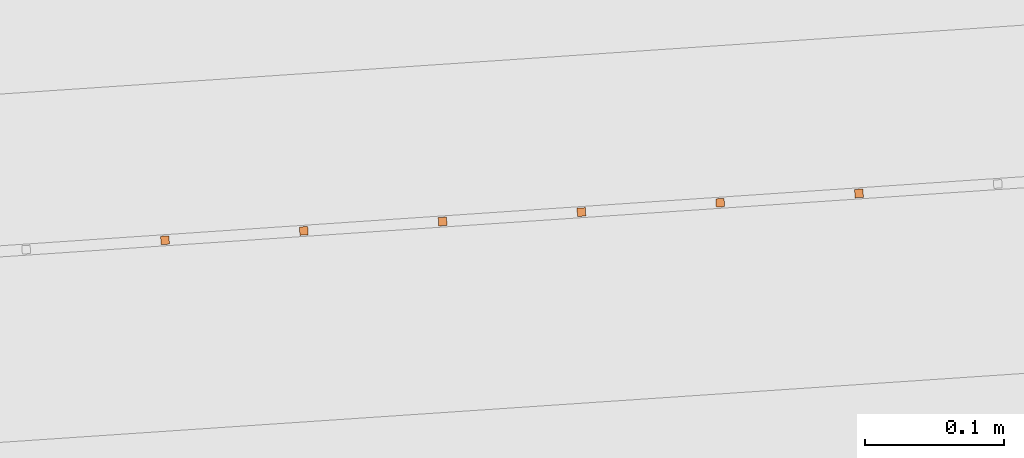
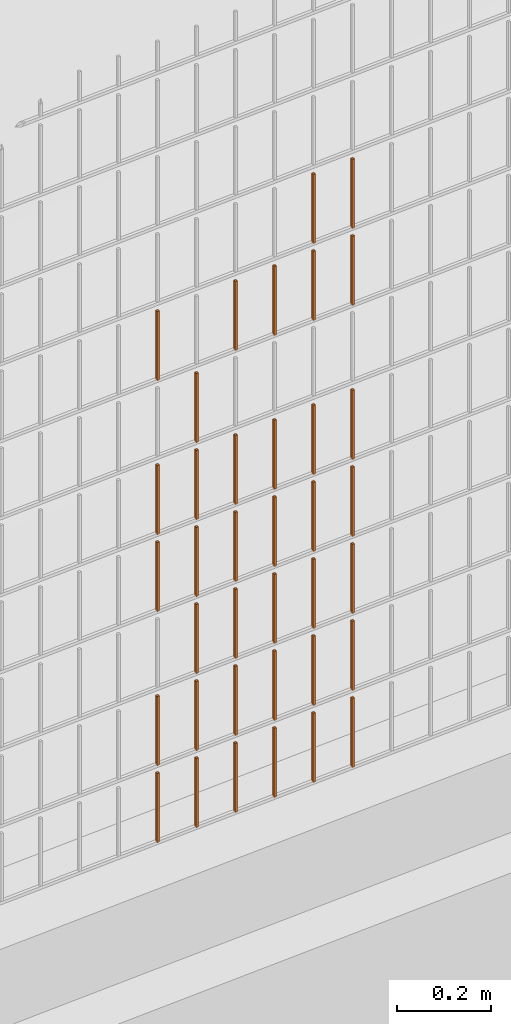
# One storey, part 163 of 1809: 37 proxies, 1 element without a shape of its own.
"""IFC2X3 building model written with IfcOpenShell, lengths in millimetres."""

from ifc_helpers import new_model, entity, si_unit, converted_unit, derived_unit, money_unit, direction, frame, origin_with_axes, place, context, subcontext, project, spatial, faceted_brep, source, transform, mapped, material, type_object, element, aggregate, save


model = new_model("IFC2X3")

# Units and contexts
model_context = context("Model", 3, precision=0.01, world=origin_with_axes(), true_north=direction((0.0, 1.0)))
body_context = subcontext(model_context, "Body", "Model", "MODEL_VIEW")
ifc_project = project(units=[si_unit("LENGTHUNIT", "METRE", prefix="MILLI"), si_unit("AREAUNIT", "SQUARE_METRE"), si_unit("VOLUMEUNIT", "CUBIC_METRE"), converted_unit("PLANEANGLEUNIT", "DEGREE", entity("IfcPlaneAngleMeasure", 0.0174532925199), si_unit("PLANEANGLEUNIT", "RADIAN"), dimensions=[0, 0, 0, 0, 0, 0, 0]), si_unit("SOLIDANGLEUNIT", "STERADIAN"), money_unit("EUR"), converted_unit("TIMEUNIT", "Year", entity("IfcTimeMeasure", 31556926.0), si_unit("TIMEUNIT", "SECOND"), dimensions=[0, 0, 1, 0, 0, 0, 0]), si_unit("MASSUNIT", "GRAM", prefix="KILO"), si_unit("THERMODYNAMICTEMPERATUREUNIT", "DEGREE_CELSIUS"), si_unit("LUMINOUSINTENSITYUNIT", "LUMEN"), si_unit("ENERGYUNIT", "JOULE", prefix="MEGA"), derived_unit("THERMALCONDUCTANCEUNIT", [(si_unit("POWERUNIT", "WATT"), 1), (si_unit("LENGTHUNIT", "METRE"), -1), (si_unit("THERMODYNAMICTEMPERATUREUNIT", "KELVIN"), -1)]), derived_unit("SPECIFICHEATCAPACITYUNIT", [(si_unit("ENERGYUNIT", "JOULE"), 1), (si_unit("MASSUNIT", "GRAM", prefix="KILO"), -1), (si_unit("THERMODYNAMICTEMPERATUREUNIT", "KELVIN"), -1)]), derived_unit("MASSDENSITYUNIT", [(si_unit("MASSUNIT", "GRAM", prefix="KILO"), 1), (si_unit("VOLUMEUNIT", "CUBIC_METRE"), -1)])], contexts=[model_context])

# Site, building, storey
site_placement = place(None, origin_with_axes())
site = spatial("IfcSite", under=ifc_project, at=site_placement, Name="Politse- ja Piirivalveameti ning Päästeameti ühishoone", CompositionType="ELEMENT")
building_placement = place(site_placement, origin_with_axes())
building = spatial("IfcBuilding", under=site, at=building_placement, Name="Politse- ja Piirivalveameti ning Päästeameti ühishoone", CompositionType="ELEMENT")
storey_placement = place(building_placement, origin_with_axes())
storey = spatial("IfcBuildingStorey", under=building, at=storey_placement, Name="Esimene korrus", CompositionType="ELEMENT", Elevation=0.0)

# Proxies
building_element_proxy_type_1 = type_object("IfcBuildingElementProxyType", Name="Railing Type", PredefinedType="NOTDEFINED")
proxy_1_placement = place(storey_placement, frame((89252.001212, -29183.4766571, 203.661247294), z_axis=(0.0, 0.0, 1.0), x_axis=(1.0, 0.0, 0.0)))
proxy_1 = element("IfcBuildingElementProxy", 1, at=proxy_1_placement, inside=storey, type_object=building_element_proxy_type_1, Name="PIIRDEAED")
ifc_material = material(Name="ET-03_Raud")
building_element_proxy_type_2 = type_object("IfcBuildingElementProxyType", Name="IfcBuildingElementProxy", PredefinedType="NOTDEFINED")
shared_shape_1 = source(origin_with_axes(), body_context, "Body", "Brep", [
    faceted_brep([(3.0, 3.0, -0.000752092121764), (-3.0, 3.0, -0.000752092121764), (-3.0, 3.0, 179.99926046), (3.0, 3.0, 179.99926046), (3.0, -3.0, 0.000752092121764), (-3.0, -3.0, 0.000752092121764), (-3.0, -3.0, 180.000764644), (3.0, -3.0, 180.000764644)], [[[0, 1, 2, 3]], [[0, 4, 5, 1]], [[1, 5, 6, 2]], [[3, 2, 6, 7]], [[4, 0, 3, 7]], [[5, 4, 7, 6]]]),
])
proxy_2_placement = place(proxy_1_placement, frame((-78348.1599185, -22589.8972888, 1207.54795105), z_axis=(0.0, 0.0, 1.0), x_axis=(1.0, 0.0, 0.0)))
proxy_2 = element("IfcBuildingElementProxy", 2, at=proxy_2_placement, type_object=building_element_proxy_type_2, material=ifc_material, Name="BALUSTER - 001", context=body_context, shape_type="MappedRepresentation", body=[
    mapped(shared_shape_1, transform((0.0, 0.0, 0.0), x_axis=(-0.0673926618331, 0.997726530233, 0.0), y_axis=(-0.997726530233, -0.0673926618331, 0.0), z_axis=(0.0, 0.0, 1.0))),
])
shared_shape_2 = source(origin_with_axes(), body_context, "Body", "Brep", [
    faceted_brep([(3.0, 3.0, -0.000752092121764), (-3.0, 3.0, -0.000752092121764), (-3.0, 3.0, 179.99926046), (3.0, 3.0, 179.99926046), (3.0, -3.0, 0.000752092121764), (-3.0, -3.0, 0.000752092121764), (-3.0, -3.0, 180.000764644), (3.0, -3.0, 180.000764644)], [[[0, 1, 2, 3]], [[0, 4, 5, 1]], [[1, 5, 6, 2]], [[3, 2, 6, 7]], [[4, 0, 3, 7]], [[5, 4, 7, 6]]]),
])
proxy_3_placement = place(proxy_1_placement, frame((-78348.1599185, -22589.8972888, 1407.54795105), z_axis=(0.0, 0.0, 1.0), x_axis=(1.0, 0.0, 0.0)))
proxy_3 = element("IfcBuildingElementProxy", 3, at=proxy_3_placement, type_object=building_element_proxy_type_2, material=ifc_material, Name="BALUSTER - 001", context=body_context, shape_type="MappedRepresentation", body=[
    mapped(shared_shape_2, transform((0.0, 0.0, 0.0), x_axis=(-0.0673926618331, 0.997726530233, 0.0), y_axis=(-0.997726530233, -0.0673926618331, 0.0), z_axis=(0.0, 0.0, 1.0))),
])
shared_shape_3 = source(origin_with_axes(), body_context, "Body", "Brep", [
    faceted_brep([(3.0, 3.0, -0.000752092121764), (-3.0, 3.0, -0.000752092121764), (-3.0, 3.0, 179.99926046), (3.0, 3.0, 179.99926046), (3.0, -3.0, 0.000752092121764), (-3.0, -3.0, 0.000752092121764), (-3.0, -3.0, 180.000764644), (3.0, -3.0, 180.000764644)], [[[0, 1, 2, 3]], [[0, 4, 5, 1]], [[1, 5, 6, 2]], [[3, 2, 6, 7]], [[4, 0, 3, 7]], [[5, 4, 7, 6]]]),
])
proxy_4_placement = place(proxy_1_placement, frame((-78447.9325715, -22596.636555, 1207.52288132), z_axis=(0.0, 0.0, 1.0), x_axis=(1.0, 0.0, 0.0)))
proxy_4 = element("IfcBuildingElementProxy", 4, at=proxy_4_placement, type_object=building_element_proxy_type_2, material=ifc_material, Name="BALUSTER - 001", context=body_context, shape_type="MappedRepresentation", body=[
    mapped(shared_shape_3, transform((0.0, 0.0, 0.0), x_axis=(-0.0673926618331, 0.997726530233, 0.0), y_axis=(-0.997726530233, -0.0673926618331, 0.0), z_axis=(0.0, 0.0, 1.0))),
])
shared_shape_4 = source(origin_with_axes(), body_context, "Body", "Brep", [
    faceted_brep([(3.0, 3.0, -0.000752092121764), (-3.0, 3.0, -0.000752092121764), (-3.0, 3.0, 179.99926046), (3.0, 3.0, 179.99926046), (3.0, -3.0, 0.000752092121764), (-3.0, -3.0, 0.000752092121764), (-3.0, -3.0, 180.000764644), (3.0, -3.0, 180.000764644)], [[[0, 1, 2, 3]], [[0, 4, 5, 1]], [[1, 5, 6, 2]], [[3, 2, 6, 7]], [[4, 0, 3, 7]], [[5, 4, 7, 6]]]),
])
proxy_5_placement = place(proxy_1_placement, frame((-78447.9325715, -22596.636555, 807.522881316), z_axis=(0.0, 0.0, 1.0), x_axis=(1.0, 0.0, 0.0)))
proxy_5 = element("IfcBuildingElementProxy", 5, at=proxy_5_placement, type_object=building_element_proxy_type_2, material=ifc_material, Name="BALUSTER - 001", context=body_context, shape_type="MappedRepresentation", body=[
    mapped(shared_shape_4, transform((0.0, 0.0, 0.0), x_axis=(-0.0673926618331, 0.997726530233, 0.0), y_axis=(-0.997726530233, -0.0673926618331, 0.0), z_axis=(0.0, 0.0, 1.0))),
])
proxy_6_placement = place(proxy_1_placement, frame((-78547.7052245, -22603.3758212, 1207.49781158), z_axis=(0.0, 0.0, 1.0), x_axis=(1.0, 0.0, 0.0)))
proxy_6 = element("IfcBuildingElementProxy", 6, at=proxy_6_placement, type_object=building_element_proxy_type_2, material=ifc_material, Name="BALUSTER - 001", context=body_context, shape_type="MappedRepresentation", body=[
    mapped(shared_shape_4, transform((0.0, 0.0, 0.0), x_axis=(-0.0673926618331, 0.997726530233, 0.0), y_axis=(-0.997726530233, -0.0673926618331, 0.0), z_axis=(0.0, 0.0, 1.0))),
])
shared_shape_5 = source(origin_with_axes(), body_context, "Body", "Brep", [
    faceted_brep([(3.0, 3.0, -0.000752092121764), (-3.0, 3.0, -0.000752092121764), (-3.0, 3.0, 179.99926046), (3.0, 3.0, 179.99926046), (3.0, -3.0, 0.000752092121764), (-3.0, -3.0, 0.000752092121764), (-3.0, -3.0, 180.000764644), (3.0, -3.0, 180.000764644)], [[[0, 1, 2, 3]], [[0, 4, 5, 1]], [[1, 5, 6, 2]], [[3, 2, 6, 7]], [[4, 0, 3, 7]], [[5, 4, 7, 6]]]),
])
proxy_7_placement = place(proxy_1_placement, frame((-78447.9325715, -22596.636555, 207.522881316), z_axis=(0.0, 0.0, 1.0), x_axis=(1.0, 0.0, 0.0)))
proxy_7 = element("IfcBuildingElementProxy", 7, at=proxy_7_placement, type_object=building_element_proxy_type_2, material=ifc_material, Name="BALUSTER - 001", context=body_context, shape_type="MappedRepresentation", body=[
    mapped(shared_shape_5, transform((0.0, 0.0, 0.0), x_axis=(-0.0673926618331, 0.997726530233, 0.0), y_axis=(-0.997726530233, -0.0673926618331, 0.0), z_axis=(0.0, 0.0, 1.0))),
])
proxy_8_placement = place(proxy_1_placement, frame((-78447.9325715, -22596.636555, 607.522881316), z_axis=(0.0, 0.0, 1.0), x_axis=(1.0, 0.0, 0.0)))
proxy_8 = element("IfcBuildingElementProxy", 8, at=proxy_8_placement, type_object=building_element_proxy_type_2, material=ifc_material, Name="BALUSTER - 001", context=body_context, shape_type="MappedRepresentation", body=[
    mapped(shared_shape_5, transform((0.0, 0.0, 0.0), x_axis=(-0.0673926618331, 0.997726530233, 0.0), y_axis=(-0.997726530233, -0.0673926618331, 0.0), z_axis=(0.0, 0.0, 1.0))),
])
shared_shape_6 = source(origin_with_axes(), body_context, "Body", "Brep", [
    faceted_brep([(3.0, 3.0, -0.000752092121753), (-3.0, 3.0, -0.000752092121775), (-3.0, 3.0, 179.99926046), (3.0, 3.0, 179.99926046), (3.0, -3.0, 0.000752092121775), (-3.0, -3.0, 0.000752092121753), (-3.0, -3.0, 180.000764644), (3.0, -3.0, 180.000764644)], [[[0, 1, 2, 3]], [[0, 4, 5, 1]], [[1, 5, 6, 2]], [[3, 2, 6, 7]], [[4, 0, 3, 7]], [[5, 4, 7, 6]]]),
])
proxy_9_placement = place(proxy_1_placement, frame((-78248.3872655, -22583.1580226, 207.573020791), z_axis=(0.0, 0.0, 1.0), x_axis=(1.0, 0.0, 0.0)))
proxy_9 = element("IfcBuildingElementProxy", 9, at=proxy_9_placement, type_object=building_element_proxy_type_2, material=ifc_material, Name="BALUSTER - 001", context=body_context, shape_type="MappedRepresentation", body=[
    mapped(shared_shape_6, transform((0.0, 0.0, 0.0), x_axis=(-0.0673926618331, 0.997726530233, 0.0), y_axis=(-0.997726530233, -0.0673926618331, 0.0), z_axis=(0.0, 0.0, 1.0))),
])
proxy_10_placement = place(proxy_1_placement, frame((-78547.7052245, -22603.3758212, 607.497811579), z_axis=(0.0, 0.0, 1.0), x_axis=(1.0, 0.0, 0.0)))
proxy_10 = element("IfcBuildingElementProxy", 10, at=proxy_10_placement, type_object=building_element_proxy_type_2, material=ifc_material, Name="BALUSTER - 001", context=body_context, shape_type="MappedRepresentation", body=[
    mapped(shared_shape_6, transform((0.0, 0.0, 0.0), x_axis=(-0.0673926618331, 0.997726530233, 0.0), y_axis=(-0.997726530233, -0.0673926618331, 0.0), z_axis=(0.0, 0.0, 1.0))),
])
shared_shape_7 = source(origin_with_axes(), body_context, "Body", "Brep", [
    faceted_brep([(3.0, 3.0, -0.000752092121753), (-3.0, 3.0, -0.000752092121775), (-3.0, 3.0, 179.99926046), (3.0, 3.0, 179.99926046), (3.0, -3.0, 0.000752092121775), (-3.0, -3.0, 0.000752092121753), (-3.0, -3.0, 180.000764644), (3.0, -3.0, 180.000764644)], [[[0, 1, 2, 3]], [[0, 4, 5, 1]], [[1, 5, 6, 2]], [[3, 2, 6, 7]], [[4, 0, 3, 7]], [[5, 4, 7, 6]]]),
])
proxy_11_placement = place(proxy_1_placement, frame((-78248.3872655, -22583.1580226, 807.573020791), z_axis=(0.0, 0.0, 1.0), x_axis=(1.0, 0.0, 0.0)))
proxy_11 = element("IfcBuildingElementProxy", 11, at=proxy_11_placement, type_object=building_element_proxy_type_2, material=ifc_material, Name="BALUSTER - 001", context=body_context, shape_type="MappedRepresentation", body=[
    mapped(shared_shape_7, transform((0.0, 0.0, 0.0), x_axis=(-0.0673926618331, 0.997726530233, 0.0), y_axis=(-0.997726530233, -0.0673926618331, 0.0), z_axis=(0.0, 0.0, 1.0))),
])
proxy_12_placement = place(proxy_1_placement, frame((-78647.4778776, -22610.1150874, 807.472741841), z_axis=(0.0, 0.0, 1.0), x_axis=(1.0, 0.0, 0.0)))
proxy_12 = element("IfcBuildingElementProxy", 12, at=proxy_12_placement, type_object=building_element_proxy_type_2, material=ifc_material, Name="BALUSTER - 001", context=body_context, shape_type="MappedRepresentation", body=[
    mapped(shared_shape_7, transform((0.0, 0.0, 0.0), x_axis=(-0.0673926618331, 0.997726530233, 0.0), y_axis=(-0.997726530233, -0.0673926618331, 0.0), z_axis=(0.0, 0.0, 1.0))),
])
shared_shape_8 = source(origin_with_axes(), body_context, "Body", "Brep", [
    faceted_brep([(3.0, 3.0, -0.000752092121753), (-3.0, 3.0, -0.000752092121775), (-3.0, 3.0, 179.99926046), (3.0, 3.0, 179.99926046), (3.0, -3.0, 0.000752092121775), (-3.0, -3.0, 0.000752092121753), (-3.0, -3.0, 180.000764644), (3.0, -3.0, 180.000764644)], [[[0, 1, 2, 3]], [[0, 4, 5, 1]], [[1, 5, 6, 2]], [[3, 2, 6, 7]], [[4, 0, 3, 7]], [[5, 4, 7, 6]]]),
])
proxy_13_placement = place(proxy_1_placement, frame((-78248.3872655, -22583.1580226, 607.573020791), z_axis=(0.0, 0.0, 1.0), x_axis=(1.0, 0.0, 0.0)))
proxy_13 = element("IfcBuildingElementProxy", 13, at=proxy_13_placement, type_object=building_element_proxy_type_2, material=ifc_material, Name="BALUSTER - 001", context=body_context, shape_type="MappedRepresentation", body=[
    mapped(shared_shape_8, transform((0.0, 0.0, 0.0), x_axis=(-0.0673926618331, 0.997726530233, 0.0), y_axis=(-0.997726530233, -0.0673926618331, 0.0), z_axis=(0.0, 0.0, 1.0))),
])
proxy_14_placement = place(proxy_1_placement, frame((-78547.7052245, -22603.3758212, 807.497811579), z_axis=(0.0, 0.0, 1.0), x_axis=(1.0, 0.0, 0.0)))
proxy_14 = element("IfcBuildingElementProxy", 14, at=proxy_14_placement, type_object=building_element_proxy_type_2, material=ifc_material, Name="BALUSTER - 001", context=body_context, shape_type="MappedRepresentation", body=[
    mapped(shared_shape_8, transform((0.0, 0.0, 0.0), x_axis=(-0.0673926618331, 0.997726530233, 0.0), y_axis=(-0.997726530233, -0.0673926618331, 0.0), z_axis=(0.0, 0.0, 1.0))),
])
proxy_15_placement = place(proxy_1_placement, frame((-78747.2505306, -22616.8543535, 1207.4476721), z_axis=(0.0, 0.0, 1.0), x_axis=(1.0, 0.0, 0.0)))
proxy_15 = element("IfcBuildingElementProxy", 15, at=proxy_15_placement, type_object=building_element_proxy_type_2, material=ifc_material, Name="BALUSTER - 001", context=body_context, shape_type="MappedRepresentation", body=[
    mapped(shared_shape_8, transform((0.0, 0.0, 0.0), x_axis=(-0.0673926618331, 0.997726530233, 0.0), y_axis=(-0.997726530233, -0.0673926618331, 0.0), z_axis=(0.0, 0.0, 1.0))),
])
shared_shape_9 = source(origin_with_axes(), body_context, "Body", "Brep", [
    faceted_brep([(3.0, 3.0, -0.000752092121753), (-3.0, 3.0, -0.000752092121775), (-3.0, 3.0, 179.99926046), (3.0, 3.0, 179.99926046), (3.0, -3.0, 0.000752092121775), (-3.0, -3.0, 0.000752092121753), (-3.0, -3.0, 180.000764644), (3.0, -3.0, 180.000764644)], [[[0, 1, 2, 3]], [[0, 4, 5, 1]], [[1, 5, 6, 2]], [[3, 2, 6, 7]], [[4, 0, 3, 7]], [[5, 4, 7, 6]]]),
])
proxy_16_placement = place(proxy_1_placement, frame((-78248.3872655, -22583.1580226, 7.57302079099), z_axis=(0.0, 0.0, 1.0), x_axis=(1.0, 0.0, 0.0)))
proxy_16 = element("IfcBuildingElementProxy", 16, at=proxy_16_placement, type_object=building_element_proxy_type_2, material=ifc_material, Name="BALUSTER - 001", context=body_context, shape_type="MappedRepresentation", body=[
    mapped(shared_shape_9, transform((0.0, 0.0, 0.0), x_axis=(-0.0673926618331, 0.997726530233, 0.0), y_axis=(-0.997726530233, -0.0673926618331, 0.0), z_axis=(0.0, 0.0, 1.0))),
])
proxy_17_placement = place(proxy_1_placement, frame((-78647.4778776, -22610.1150874, 7.47274184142), z_axis=(0.0, 0.0, 1.0), x_axis=(1.0, 0.0, 0.0)))
proxy_17 = element("IfcBuildingElementProxy", 17, at=proxy_17_placement, type_object=building_element_proxy_type_2, material=ifc_material, Name="BALUSTER - 001", context=body_context, shape_type="MappedRepresentation", body=[
    mapped(shared_shape_9, transform((0.0, 0.0, 0.0), x_axis=(-0.0673926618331, 0.997726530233, 0.0), y_axis=(-0.997726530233, -0.0673926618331, 0.0), z_axis=(0.0, 0.0, 1.0))),
])
shared_shape_10 = source(origin_with_axes(), body_context, "Body", "Brep", [
    faceted_brep([(3.0, 3.0, -0.000752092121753), (-3.0, 3.0, -0.000752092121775), (-3.0, 3.0, 179.99926046), (3.0, 3.0, 179.99926046), (3.0, -3.0, 0.000752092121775), (-3.0, -3.0, 0.000752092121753), (-3.0, -3.0, 180.000764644), (3.0, -3.0, 180.000764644)], [[[0, 1, 2, 3]], [[0, 4, 5, 1]], [[1, 5, 6, 2]], [[3, 2, 6, 7]], [[4, 0, 3, 7]], [[5, 4, 7, 6]]]),
])
proxy_18_placement = place(proxy_1_placement, frame((-78547.7052245, -22603.3758212, 207.497811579), z_axis=(0.0, 0.0, 1.0), x_axis=(1.0, 0.0, 0.0)))
proxy_18 = element("IfcBuildingElementProxy", 18, at=proxy_18_placement, type_object=building_element_proxy_type_2, material=ifc_material, Name="BALUSTER - 001", context=body_context, shape_type="MappedRepresentation", body=[
    mapped(shared_shape_10, transform((0.0, 0.0, 0.0), x_axis=(-0.0673926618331, 0.997726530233, 0.0), y_axis=(-0.997726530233, -0.0673926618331, 0.0), z_axis=(0.0, 0.0, 1.0))),
])
proxy_19_placement = place(proxy_1_placement, frame((-78248.3872655, -22583.1580226, 407.573020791), z_axis=(0.0, 0.0, 1.0), x_axis=(1.0, 0.0, 0.0)))
proxy_19 = element("IfcBuildingElementProxy", 19, at=proxy_19_placement, type_object=building_element_proxy_type_2, material=ifc_material, Name="BALUSTER - 001", context=body_context, shape_type="MappedRepresentation", body=[
    mapped(shared_shape_10, transform((0.0, 0.0, 0.0), x_axis=(-0.0673926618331, 0.997726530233, 0.0), y_axis=(-0.997726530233, -0.0673926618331, 0.0), z_axis=(0.0, 0.0, 1.0))),
])
proxy_20_placement = place(proxy_1_placement, frame((-78547.7052245, -22603.3758212, 407.497811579), z_axis=(0.0, 0.0, 1.0), x_axis=(1.0, 0.0, 0.0)))
proxy_20 = element("IfcBuildingElementProxy", 20, at=proxy_20_placement, type_object=building_element_proxy_type_2, material=ifc_material, Name="BALUSTER - 001", context=body_context, shape_type="MappedRepresentation", body=[
    mapped(shared_shape_10, transform((0.0, 0.0, 0.0), x_axis=(-0.0673926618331, 0.997726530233, 0.0), y_axis=(-0.997726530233, -0.0673926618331, 0.0), z_axis=(0.0, 0.0, 1.0))),
])
proxy_21_placement = place(proxy_1_placement, frame((-78647.4778776, -22610.1150874, 407.472741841), z_axis=(0.0, 0.0, 1.0), x_axis=(1.0, 0.0, 0.0)))
proxy_21 = element("IfcBuildingElementProxy", 21, at=proxy_21_placement, type_object=building_element_proxy_type_2, material=ifc_material, Name="BALUSTER - 001", context=body_context, shape_type="MappedRepresentation", body=[
    mapped(shared_shape_10, transform((0.0, 0.0, 0.0), x_axis=(-0.0673926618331, 0.997726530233, 0.0), y_axis=(-0.997726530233, -0.0673926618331, 0.0), z_axis=(0.0, 0.0, 1.0))),
])
proxy_22_placement = place(proxy_1_placement, frame((-78647.4778776, -22610.1150874, 607.472741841), z_axis=(0.0, 0.0, 1.0), x_axis=(1.0, 0.0, 0.0)))
proxy_22 = element("IfcBuildingElementProxy", 22, at=proxy_22_placement, type_object=building_element_proxy_type_2, material=ifc_material, Name="BALUSTER - 001", context=body_context, shape_type="MappedRepresentation", body=[
    mapped(shared_shape_10, transform((0.0, 0.0, 0.0), x_axis=(-0.0673926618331, 0.997726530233, 0.0), y_axis=(-0.997726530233, -0.0673926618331, 0.0), z_axis=(0.0, 0.0, 1.0))),
])
shared_shape_11 = source(origin_with_axes(), body_context, "Body", "Brep", [
    faceted_brep([(3.0, 3.0, -0.000752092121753), (-3.0, 3.0, -0.000752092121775), (-3.0, 3.0, 179.99926046), (3.0, 3.0, 179.99926046), (3.0, -3.0, 0.000752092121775), (-3.0, -3.0, 0.000752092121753), (-3.0, -3.0, 180.000764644), (3.0, -3.0, 180.000764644)], [[[0, 1, 2, 3]], [[0, 4, 5, 1]], [[1, 5, 6, 2]], [[3, 2, 6, 7]], [[4, 0, 3, 7]], [[5, 4, 7, 6]]]),
])
proxy_23_placement = place(proxy_1_placement, frame((-78248.3872655, -22583.1580226, 1207.57302079), z_axis=(0.0, 0.0, 1.0), x_axis=(1.0, 0.0, 0.0)))
proxy_23 = element("IfcBuildingElementProxy", 23, at=proxy_23_placement, type_object=building_element_proxy_type_2, material=ifc_material, Name="BALUSTER - 001", context=body_context, shape_type="MappedRepresentation", body=[
    mapped(shared_shape_11, transform((0.0, 0.0, 0.0), x_axis=(-0.0673926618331, 0.997726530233, 0.0), y_axis=(-0.997726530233, -0.0673926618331, 0.0), z_axis=(0.0, 0.0, 1.0))),
])
shared_shape_12 = source(origin_with_axes(), body_context, "Body", "Brep", [
    faceted_brep([(3.0, 3.0, -0.000752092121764), (-3.0, 3.0, -0.000752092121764), (-3.0, 3.0, 179.99926046), (3.0, 3.0, 179.99926046), (3.0, -3.0, 0.000752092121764), (-3.0, -3.0, 0.000752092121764), (-3.0, -3.0, 180.000764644), (3.0, -3.0, 180.000764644)], [[[0, 1, 2, 3]], [[0, 4, 5, 1]], [[1, 5, 6, 2]], [[3, 2, 6, 7]], [[4, 0, 3, 7]], [[5, 4, 7, 6]]]),
])
proxy_24_placement = place(proxy_1_placement, frame((-78447.9325715, -22596.636555, 7.5228813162), z_axis=(0.0, 0.0, 1.0), x_axis=(1.0, 0.0, 0.0)))
proxy_24 = element("IfcBuildingElementProxy", 24, at=proxy_24_placement, type_object=building_element_proxy_type_2, material=ifc_material, Name="BALUSTER - 001", context=body_context, shape_type="MappedRepresentation", body=[
    mapped(shared_shape_12, transform((0.0, 0.0, 0.0), x_axis=(-0.0673926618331, 0.997726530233, 0.0), y_axis=(-0.997726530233, -0.0673926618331, 0.0), z_axis=(0.0, 0.0, 1.0))),
])
shared_shape_13 = source(origin_with_axes(), body_context, "Body", "Brep", [
    faceted_brep([(3.0, 3.0, -0.000752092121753), (-3.0, 3.0, -0.000752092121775), (-3.0, 3.0, 179.99926046), (3.0, 3.0, 179.99926046), (3.0, -3.0, 0.000752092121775), (-3.0, -3.0, 0.000752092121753), (-3.0, -3.0, 180.000764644), (3.0, -3.0, 180.000764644)], [[[0, 1, 2, 3]], [[0, 4, 5, 1]], [[1, 5, 6, 2]], [[3, 2, 6, 7]], [[4, 0, 3, 7]], [[5, 4, 7, 6]]]),
])
proxy_25_placement = place(proxy_1_placement, frame((-78647.4778776, -22610.1150874, 207.472741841), z_axis=(0.0, 0.0, 1.0), x_axis=(1.0, 0.0, 0.0)))
proxy_25 = element("IfcBuildingElementProxy", 25, at=proxy_25_placement, type_object=building_element_proxy_type_2, material=ifc_material, Name="BALUSTER - 001", context=body_context, shape_type="MappedRepresentation", body=[
    mapped(shared_shape_13, transform((0.0, 0.0, 0.0), x_axis=(-0.0673926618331, 0.997726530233, 0.0), y_axis=(-0.997726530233, -0.0673926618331, 0.0), z_axis=(0.0, 0.0, 1.0))),
])
shared_shape_14 = source(origin_with_axes(), body_context, "Body", "Brep", [
    faceted_brep([(3.0, 3.0, -0.000752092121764), (-3.0, 3.0, -0.000752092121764), (-3.0, 3.0, 179.99926046), (3.0, 3.0, 179.99926046), (3.0, -3.0, 0.000752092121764), (-3.0, -3.0, 0.000752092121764), (-3.0, -3.0, 180.000764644), (3.0, -3.0, 180.000764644)], [[[0, 1, 2, 3]], [[0, 4, 5, 1]], [[1, 5, 6, 2]], [[3, 2, 6, 7]], [[4, 0, 3, 7]], [[5, 4, 7, 6]]]),
])
proxy_26_placement = place(proxy_1_placement, frame((-78447.9325715, -22596.636555, 407.522881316), z_axis=(0.0, 0.0, 1.0), x_axis=(1.0, 0.0, 0.0)))
proxy_26 = element("IfcBuildingElementProxy", 26, at=proxy_26_placement, type_object=building_element_proxy_type_2, material=ifc_material, Name="BALUSTER - 001", context=body_context, shape_type="MappedRepresentation", body=[
    mapped(shared_shape_14, transform((0.0, 0.0, 0.0), x_axis=(-0.0673926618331, 0.997726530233, 0.0), y_axis=(-0.997726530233, -0.0673926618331, 0.0), z_axis=(0.0, 0.0, 1.0))),
])
shared_shape_15 = source(origin_with_axes(), body_context, "Body", "Brep", [
    faceted_brep([(3.0, 3.0, -0.000752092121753), (-3.0, 3.0, -0.000752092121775), (-3.0, 3.0, 179.99926046), (3.0, 3.0, 179.99926046), (3.0, -3.0, 0.000752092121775), (-3.0, -3.0, 0.000752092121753), (-3.0, -3.0, 180.000764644), (3.0, -3.0, 180.000764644)], [[[0, 1, 2, 3]], [[0, 4, 5, 1]], [[1, 5, 6, 2]], [[3, 2, 6, 7]], [[4, 0, 3, 7]], [[5, 4, 7, 6]]]),
])
proxy_27_placement = place(proxy_1_placement, frame((-78248.3872655, -22583.1580226, 1407.57302079), z_axis=(0.0, 0.0, 1.0), x_axis=(1.0, 0.0, 0.0)))
proxy_27 = element("IfcBuildingElementProxy", 27, at=proxy_27_placement, type_object=building_element_proxy_type_2, material=ifc_material, Name="BALUSTER - 001", context=body_context, shape_type="MappedRepresentation", body=[
    mapped(shared_shape_15, transform((0.0, 0.0, 0.0), x_axis=(-0.0673926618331, 0.997726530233, 0.0), y_axis=(-0.997726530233, -0.0673926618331, 0.0), z_axis=(0.0, 0.0, 1.0))),
])
shared_shape_16 = source(origin_with_axes(), body_context, "Body", "Brep", [
    faceted_brep([(3.0, 3.0, -0.000752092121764), (-3.0, 3.0, -0.000752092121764), (-3.0, 3.0, 179.99926046), (3.0, 3.0, 179.99926046), (3.0, -3.0, 0.000752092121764), (-3.0, -3.0, 0.000752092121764), (-3.0, -3.0, 180.000764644), (3.0, -3.0, 180.000764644)], [[[0, 1, 2, 3]], [[0, 4, 5, 1]], [[1, 5, 6, 2]], [[3, 2, 6, 7]], [[4, 0, 3, 7]], [[5, 4, 7, 6]]]),
])
proxy_28_placement = place(proxy_1_placement, frame((-78348.1599185, -22589.8972888, 7.5479510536), z_axis=(0.0, 0.0, 1.0), x_axis=(1.0, 0.0, 0.0)))
proxy_28 = element("IfcBuildingElementProxy", 28, at=proxy_28_placement, type_object=building_element_proxy_type_2, material=ifc_material, Name="BALUSTER - 001", context=body_context, shape_type="MappedRepresentation", body=[
    mapped(shared_shape_16, transform((0.0, 0.0, 0.0), x_axis=(-0.0673926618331, 0.997726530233, 0.0), y_axis=(-0.997726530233, -0.0673926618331, 0.0), z_axis=(0.0, 0.0, 1.0))),
])
shared_shape_17 = source(origin_with_axes(), body_context, "Body", "Brep", [
    faceted_brep([(3.0, 3.0, -0.000752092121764), (-3.0, 3.0, -0.000752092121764), (-3.0, 3.0, 179.99926046), (3.0, 3.0, 179.99926046), (3.0, -3.0, 0.000752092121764), (-3.0, -3.0, 0.000752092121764), (-3.0, -3.0, 180.000764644), (3.0, -3.0, 180.000764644)], [[[0, 1, 2, 3]], [[0, 4, 5, 1]], [[1, 5, 6, 2]], [[3, 2, 6, 7]], [[4, 0, 3, 7]], [[5, 4, 7, 6]]]),
])
proxy_29_placement = place(proxy_1_placement, frame((-78348.1599185, -22589.8972888, 207.547951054), z_axis=(0.0, 0.0, 1.0), x_axis=(1.0, 0.0, 0.0)))
proxy_29 = element("IfcBuildingElementProxy", 29, at=proxy_29_placement, type_object=building_element_proxy_type_2, material=ifc_material, Name="BALUSTER - 001", context=body_context, shape_type="MappedRepresentation", body=[
    mapped(shared_shape_17, transform((0.0, 0.0, 0.0), x_axis=(-0.0673926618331, 0.997726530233, 0.0), y_axis=(-0.997726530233, -0.0673926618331, 0.0), z_axis=(0.0, 0.0, 1.0))),
])
proxy_30_placement = place(proxy_1_placement, frame((-78348.1599185, -22589.8972888, 407.547951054), z_axis=(0.0, 0.0, 1.0), x_axis=(1.0, 0.0, 0.0)))
proxy_30 = element("IfcBuildingElementProxy", 30, at=proxy_30_placement, type_object=building_element_proxy_type_2, material=ifc_material, Name="BALUSTER - 001", context=body_context, shape_type="MappedRepresentation", body=[
    mapped(shared_shape_17, transform((0.0, 0.0, 0.0), x_axis=(-0.0673926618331, 0.997726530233, 0.0), y_axis=(-0.997726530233, -0.0673926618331, 0.0), z_axis=(0.0, 0.0, 1.0))),
])
proxy_31_placement = place(proxy_1_placement, frame((-78348.1599185, -22589.8972888, 607.547951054), z_axis=(0.0, 0.0, 1.0), x_axis=(1.0, 0.0, 0.0)))
proxy_31 = element("IfcBuildingElementProxy", 31, at=proxy_31_placement, type_object=building_element_proxy_type_2, material=ifc_material, Name="BALUSTER - 001", context=body_context, shape_type="MappedRepresentation", body=[
    mapped(shared_shape_17, transform((0.0, 0.0, 0.0), x_axis=(-0.0673926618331, 0.997726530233, 0.0), y_axis=(-0.997726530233, -0.0673926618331, 0.0), z_axis=(0.0, 0.0, 1.0))),
])
shared_shape_18 = source(origin_with_axes(), body_context, "Body", "Brep", [
    faceted_brep([(3.0, 3.0, -0.000752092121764), (-3.0, 3.0, -0.000752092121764), (-3.0, 3.0, 179.99926046), (3.0, 3.0, 179.99926046), (3.0, -3.0, 0.000752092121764), (-3.0, -3.0, 0.000752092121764), (-3.0, -3.0, 180.000764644), (3.0, -3.0, 180.000764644)], [[[0, 1, 2, 3]], [[0, 4, 5, 1]], [[1, 5, 6, 2]], [[3, 2, 6, 7]], [[4, 0, 3, 7]], [[5, 4, 7, 6]]]),
])
proxy_32_placement = place(proxy_1_placement, frame((-78348.1599185, -22589.8972888, 807.547951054), z_axis=(0.0, 0.0, 1.0), x_axis=(1.0, 0.0, 0.0)))
proxy_32 = element("IfcBuildingElementProxy", 32, at=proxy_32_placement, type_object=building_element_proxy_type_2, material=ifc_material, Name="BALUSTER - 001", context=body_context, shape_type="MappedRepresentation", body=[
    mapped(shared_shape_18, transform((0.0, 0.0, 0.0), x_axis=(-0.0673926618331, 0.997726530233, 0.0), y_axis=(-0.997726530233, -0.0673926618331, 0.0), z_axis=(0.0, 0.0, 1.0))),
])
shared_shape_19 = source(origin_with_axes(), body_context, "Body", "Brep", [
    faceted_brep([(3.0, 3.0, -0.000752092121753), (-3.0, 3.0, -0.000752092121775), (-3.0, 3.0, 179.99926046), (3.0, 3.0, 179.99926046), (3.0, -3.0, 0.000752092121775), (-3.0, -3.0, 0.000752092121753), (-3.0, -3.0, 180.000764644), (3.0, -3.0, 180.000764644)], [[[0, 1, 2, 3]], [[0, 4, 5, 1]], [[1, 5, 6, 2]], [[3, 2, 6, 7]], [[4, 0, 3, 7]], [[5, 4, 7, 6]]]),
])
proxy_33_placement = place(proxy_1_placement, frame((-78547.7052245, -22603.3758212, 7.49781157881), z_axis=(0.0, 0.0, 1.0), x_axis=(1.0, 0.0, 0.0)))
proxy_33 = element("IfcBuildingElementProxy", 33, at=proxy_33_placement, type_object=building_element_proxy_type_2, material=ifc_material, Name="BALUSTER - 001", context=body_context, shape_type="MappedRepresentation", body=[
    mapped(shared_shape_19, transform((0.0, 0.0, 0.0), x_axis=(-0.0673926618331, 0.997726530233, 0.0), y_axis=(-0.997726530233, -0.0673926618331, 0.0), z_axis=(0.0, 0.0, 1.0))),
])
shared_shape_20 = source(origin_with_axes(), body_context, "Body", "Brep", [
    faceted_brep([(3.0, 3.0, -0.000752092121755), (-3.0, 3.0, -0.000752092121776), (-3.0, 3.0, 179.99926046), (3.0, 3.0, 179.99926046), (3.0, -3.0, 0.000752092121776), (-3.0, -3.0, 0.000752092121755), (-3.0, -3.0, 180.000764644), (3.0, -3.0, 180.000764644)], [[[0, 1, 2, 3]], [[0, 4, 5, 1]], [[1, 5, 6, 2]], [[3, 2, 6, 7]], [[4, 0, 3, 7]], [[5, 4, 7, 6]]]),
])
proxy_34_placement = place(proxy_1_placement, frame((-78747.2505306, -22616.8543535, 7.44767210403), z_axis=(0.0, 0.0, 1.0), x_axis=(1.0, 0.0, 0.0)))
proxy_34 = element("IfcBuildingElementProxy", 34, at=proxy_34_placement, type_object=building_element_proxy_type_2, material=ifc_material, Name="BALUSTER - 001", context=body_context, shape_type="MappedRepresentation", body=[
    mapped(shared_shape_20, transform((0.0, 0.0, 0.0), x_axis=(-0.0673926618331, 0.997726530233, 0.0), y_axis=(-0.997726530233, -0.0673926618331, 0.0), z_axis=(0.0, 0.0, 1.0))),
])
proxy_35_placement = place(proxy_1_placement, frame((-78747.2505306, -22616.8543535, 207.447672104), z_axis=(0.0, 0.0, 1.0), x_axis=(1.0, 0.0, 0.0)))
proxy_35 = element("IfcBuildingElementProxy", 35, at=proxy_35_placement, type_object=building_element_proxy_type_2, material=ifc_material, Name="BALUSTER - 001", context=body_context, shape_type="MappedRepresentation", body=[
    mapped(shared_shape_20, transform((0.0, 0.0, 0.0), x_axis=(-0.0673926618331, 0.997726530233, 0.0), y_axis=(-0.997726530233, -0.0673926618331, 0.0), z_axis=(0.0, 0.0, 1.0))),
])
shared_shape_21 = source(origin_with_axes(), body_context, "Body", "Brep", [
    faceted_brep([(3.0, 3.0, -0.000752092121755), (-3.0, 3.0, -0.000752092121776), (-3.0, 3.0, 179.99926046), (3.0, 3.0, 179.99926046), (3.0, -3.0, 0.000752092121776), (-3.0, -3.0, 0.000752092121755), (-3.0, -3.0, 180.000764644), (3.0, -3.0, 180.000764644)], [[[0, 1, 2, 3]], [[0, 4, 5, 1]], [[1, 5, 6, 2]], [[3, 2, 6, 7]], [[4, 0, 3, 7]], [[5, 4, 7, 6]]]),
])
proxy_36_placement = place(proxy_1_placement, frame((-78747.2505306, -22616.8543535, 607.447672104), z_axis=(0.0, 0.0, 1.0), x_axis=(1.0, 0.0, 0.0)))
proxy_36 = element("IfcBuildingElementProxy", 36, at=proxy_36_placement, type_object=building_element_proxy_type_2, material=ifc_material, Name="BALUSTER - 001", context=body_context, shape_type="MappedRepresentation", body=[
    mapped(shared_shape_21, transform((0.0, 0.0, 0.0), x_axis=(-0.0673926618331, 0.997726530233, 0.0), y_axis=(-0.997726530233, -0.0673926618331, 0.0), z_axis=(0.0, 0.0, 1.0))),
])
proxy_37_placement = place(proxy_1_placement, frame((-78747.2505306, -22616.8543535, 807.447672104), z_axis=(0.0, 0.0, 1.0), x_axis=(1.0, 0.0, 0.0)))
proxy_37 = element("IfcBuildingElementProxy", 37, at=proxy_37_placement, type_object=building_element_proxy_type_2, material=ifc_material, Name="BALUSTER - 001", context=body_context, shape_type="MappedRepresentation", body=[
    mapped(shared_shape_21, transform((0.0, 0.0, 0.0), x_axis=(-0.0673926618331, 0.997726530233, 0.0), y_axis=(-0.997726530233, -0.0673926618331, 0.0), z_axis=(0.0, 0.0, 1.0))),
])
shared_shape_22 = source(origin_with_axes(), body_context, "Body", "Brep", [
    faceted_brep([(3.0, 3.0, -0.00075209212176), (-3.0, 3.0, -0.000752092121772), (-3.00000000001, 3.0, 179.99926046), (2.99999999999, 3.0, 179.99926046), (3.0, -3.0, 0.000752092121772), (-3.0, -3.0, 0.00075209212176), (-3.00000000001, -3.0, 180.000764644), (2.99999999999, -3.0, 180.000764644)], [[[0, 1, 2, 3]], [[0, 4, 5, 1]], [[1, 5, 6, 2]], [[3, 2, 6, 7]], [[4, 0, 3, 7]], [[5, 4, 7, 6]]]),
])
proxy_38_placement = place(proxy_1_placement, frame((-78647.4778776, -22610.1150874, 1007.47274184), z_axis=(0.0, 0.0, 1.0), x_axis=(1.0, 0.0, 0.0)))
proxy_38 = element("IfcBuildingElementProxy", 38, at=proxy_38_placement, type_object=building_element_proxy_type_2, material=ifc_material, Name="BALUSTER - 001", context=body_context, shape_type="MappedRepresentation", body=[
    mapped(shared_shape_22, transform((0.0, 0.0, 0.0), x_axis=(-0.0673926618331, 0.997726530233, 0.0), y_axis=(-0.997726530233, -0.0673926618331, 0.0), z_axis=(0.0, 0.0, 1.0))),
])
aggregate(proxy_1, [proxy_16, proxy_28, proxy_24, proxy_33, proxy_17, proxy_34, proxy_9, proxy_29, proxy_7, proxy_18, proxy_25, proxy_35, proxy_19, proxy_30, proxy_26, proxy_20, proxy_21, proxy_13, proxy_31, proxy_8, proxy_10, proxy_22, proxy_36, proxy_11, proxy_32, proxy_5, proxy_14, proxy_12, proxy_37, proxy_38, proxy_23, proxy_2, proxy_4, proxy_6, proxy_15, proxy_27, proxy_3])

save(model, "model.ifc")
